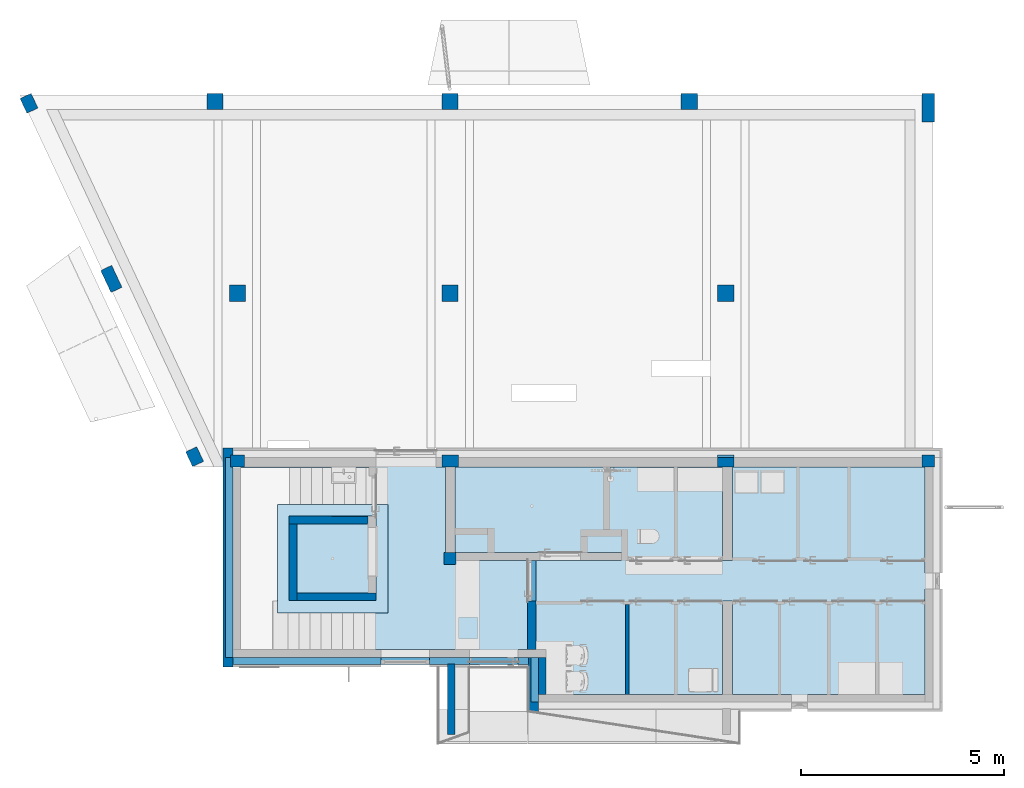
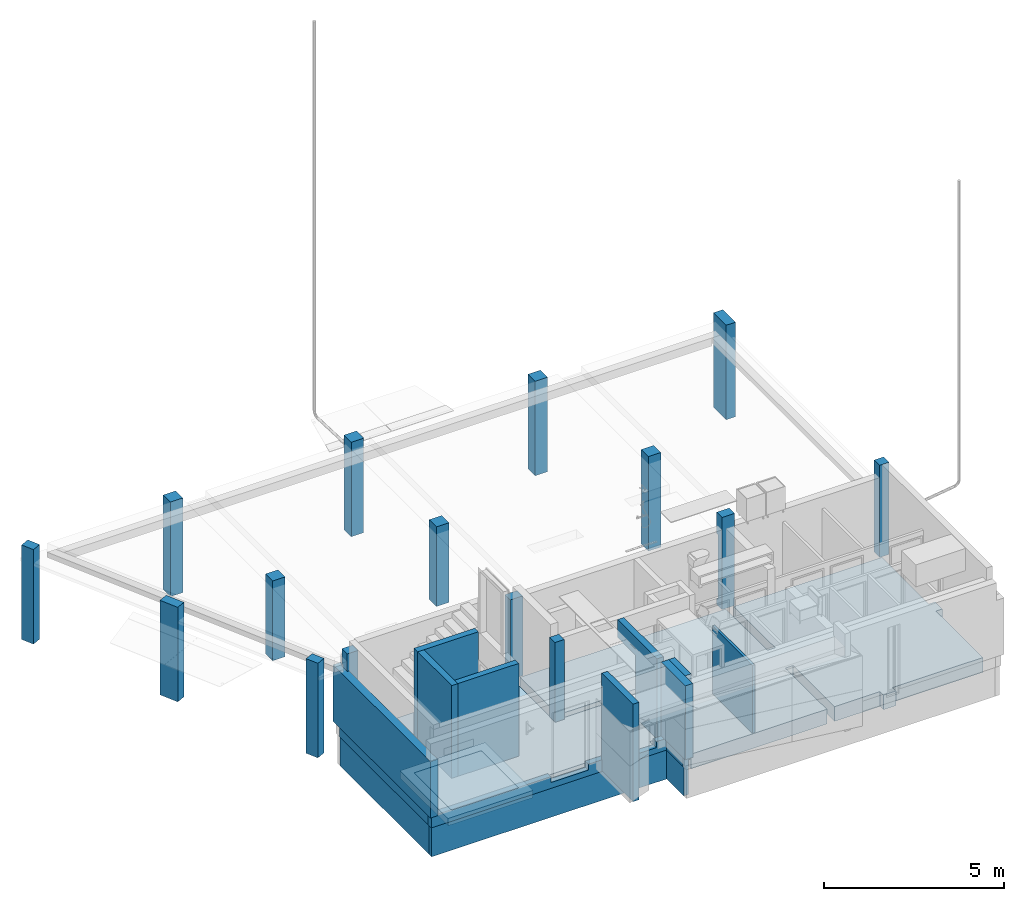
# One storey, part 1 of 55: 15 columns, 12 walls, 4 slabs, 6 openings.
"""IFC2X3 building model written with IfcOpenShell, lengths in millimetres."""

from ifc_helpers import new_model, entity, si_unit, converted_unit, direction, frame, frame_2d, origin, origin_2d_with_axis, place, context, subcontext, project, spatial, polyline, rectangle, outline, extrude, boolean, clip, bounded_halfspace, faceted_brep, source, transform, mapped, material, layer, layer_set, layer_usage, type_object, type_shapes, element, save


model = new_model("IFC2X3")

# Units and contexts
model_context = context("Model", 3, precision=0.01, world=origin(), true_north=direction((6.123233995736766e-17, 1.0)))
plan_context = context("Plan", 3, precision=0.01, world=origin(), true_north=direction((6.123233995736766e-17, 1.0)))
body_context = subcontext(model_context, "Body", "Model", "MODEL_VIEW")
ifc_project = project(units=[si_unit("LENGTHUNIT", "METRE", prefix="MILLI"), converted_unit("PLANEANGLEUNIT", "DEGREE", entity("IfcPlaneAngleMeasure", 0.017453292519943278), si_unit("PLANEANGLEUNIT", "RADIAN"), dimensions=[0, 0, 0, 0, 0, 0, 0]), si_unit("AREAUNIT", "SQUARE_METRE")], contexts=[model_context, plan_context])

# Site, building, storey
site_placement = place(None, origin())
site = spatial("IfcSite", under=ifc_project, at=site_placement, Name="Default", CompositionType="ELEMENT")
building_placement = place(site_placement, origin())
building = spatial("IfcBuilding", under=site, at=building_placement, CompositionType="ELEMENT")
storey_placement = place(building_placement, origin())
storey = spatial("IfcBuildingStorey", under=building, at=storey_placement, Name="1K", CompositionType="ELEMENT", Elevation=0.0)

# Columns
ifc_material_1 = material(Name="_K. Betoon. Armeeritud. Monteeritav")
column_type_1 = type_object("IfcColumnType", Name="HR_Column_Rectangular_Solid:400x300", PredefinedType="COLUMN", material=ifc_material_1)
shared_shape_1 = source(origin(), body_context, "Body", "SweptSolid", [
    extrude(outline(polyline([(-1693.5000495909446, -210.0), (1431.4999504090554, -210.0), (1431.4999504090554, 90.0), (1231.4999504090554, 90.0), (1231.4999504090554, 30.0), (-969.4998512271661, 30.0), (-969.4998512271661, 90.0), (-1693.5000495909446, 90.0), (-1693.5000495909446, -210.0)])), frame((11775.003532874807, 6615.000000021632, 1431.4999504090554), z_axis=(1.0, 0.0, 0.0), x_axis=(0.0, 0.0, -1.0)), (0.0, 0.0, 1.0), 399.9999999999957),
])
type_shapes(column_type_1, [shared_shape_1])
column_1_placement = place(storey_placement, origin())
element("IfcColumn", 1, at=column_1_placement, inside=storey, type_object=column_type_1, material=ifc_material_1, Name="HR_Column_Rectangular_Solid:400x300", ObjectType="HR_Column_Rectangular_Solid:400x300", context=body_context, shape_type="MappedRepresentation", body=[
    mapped(shared_shape_1, transform((0.0, 0.0, 0.0), scale=1.0)),
])
column_type_2 = type_object("IfcColumnType", Name="HR_Column_Rectangular_Solid:400x300", PredefinedType="COLUMN", material=ifc_material_1)
shared_shape_2 = source(origin(), body_context, "Body", "SweptSolid", [
    extrude(rectangle(XDim=300.0, YDim=399.99999999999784, at=frame_2d((5.400124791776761e-13, 0.0), x_axis=(1.0, 0.0))), frame((5180.001886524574, 6555.000000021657, 0.0), z_axis=(0.0, 0.0, 1.0), x_axis=(0.0, 1.0, 0.0)), (0.0, 0.0, 1.0), 2705.0),
])
type_shapes(column_type_2, [shared_shape_2])
column_2_placement = place(storey_placement, origin())
element("IfcColumn", 2, at=column_2_placement, inside=storey, type_object=column_type_2, material=ifc_material_1, Name="HR_Column_Rectangular_Solid:400x300", ObjectType="HR_Column_Rectangular_Solid:400x300", context=body_context, shape_type="MappedRepresentation", body=[
    mapped(shared_shape_2, transform((0.0, 0.0, 0.0), scale=1.0)),
])
column_type_3 = type_object("IfcColumnType", Name="HR_Column_Rectangular_Solid:350x300", PredefinedType="COLUMN", material=ifc_material_1)
shared_shape_3 = source(origin(), body_context, "Body", "SweptSolid", [
    extrude(rectangle(XDim=300.0, YDim=349.99999999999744, at=frame_2d((5.400124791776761e-13, 1.4210854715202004e-14), x_axis=(1.0, 0.0))), frame((-75.0, 6555.000000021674, 0.0), z_axis=(0.0, 0.0, 1.0), x_axis=(0.0, 1.0, 0.0)), (0.0, 0.0, 1.0), 2705.0),
])
type_shapes(column_type_3, [shared_shape_3])
column_3_placement = place(storey_placement, origin())
element("IfcColumn", 3, at=column_3_placement, inside=storey, type_object=column_type_3, material=ifc_material_1, Name="HR_Column_Rectangular_Solid:350x300", ObjectType="HR_Column_Rectangular_Solid:350x300", context=body_context, shape_type="MappedRepresentation", body=[
    mapped(shared_shape_3, transform((0.0, 0.0, 0.0), scale=1.0)),
])
column_type_4 = type_object("IfcColumnType", Name="HR_Column_Rectangular_Solid:300x300", PredefinedType="COLUMN", material=ifc_material_1)
shared_shape_4 = source(origin(), body_context, "Body", "SweptSolid", [
    extrude(rectangle(XDim=300.0, YDim=299.99999999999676, at=frame_2d((-5.400124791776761e-13, 0.0), x_axis=(1.0, 0.0))), frame((16975.0, 6555.0000000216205, 0.0), z_axis=(0.0, 0.0, 1.0), x_axis=(0.0, 1.0, 0.0)), (0.0, 0.0, 1.0), 3125.0),
])
type_shapes(column_type_4, [shared_shape_4])
column_4_placement = place(storey_placement, origin())
element("IfcColumn", 4, at=column_4_placement, inside=storey, type_object=column_type_4, material=ifc_material_1, Name="HR_Column_Rectangular_Solid:300x300", ObjectType="HR_Column_Rectangular_Solid:300x300", context=body_context, shape_type="MappedRepresentation", body=[
    mapped(shared_shape_4, transform((0.0, 0.0, 0.0), scale=1.0)),
])
column_type_5 = type_object("IfcColumnType", Name="HR_Column_Rectangular_Solid:400x400", PredefinedType="COLUMN", material=ifc_material_1)
shared_shape_5 = source(origin(), body_context, "Body", "SweptSolid", [
    extrude(rectangle(XDim=399.99999999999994, YDim=399.99999999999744, at=origin_2d_with_axis()), frame((0.0, 0.0, -500.0), z_axis=(0.0, 0.0, 1.0), x_axis=(0.0, 1.0, 0.0)), (0.0, 0.0, 1.0), 3205.0),
])
type_shapes(column_type_5, [shared_shape_5])
for number, where, name in (
    (5, (11975.0, 10700.0, 0.0), "HR_Column_Rectangular_Solid:400x400"),
    (6, (5175.0, 15430.0, 0.0), "HR_Column_Rectangular_Solid:400x400"),
    (7, (-625.0, 15430.0, 0.0), "HR_Column_Rectangular_Solid:400x400"),
    (8, (11075.0, 15430.0, 0.0), "HR_Column_Rectangular_Solid:400x400"),
):
    element("IfcColumn", number, at=place(storey_placement, frame(where)), inside=storey, type_object=column_type_5, material=ifc_material_1, Name=name, ObjectType="HR_Column_Rectangular_Solid:400x400", context=body_context, shape_type="MappedRepresentation", body=[
        mapped(shared_shape_5, transform((0.0, 0.0, 0.0), scale=1.0)),
    ])
column_type_6 = type_object("IfcColumnType", Name="HR_Column_Rectangular_Solid:400x400", PredefinedType="COLUMN", material=ifc_material_1)
shared_shape_6 = source(origin(), body_context, "Body", "SweptSolid", [
    extrude(rectangle(XDim=399.99999999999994, YDim=399.99999999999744, at=origin_2d_with_axis()), frame((0.0, 0.0, 0.0), z_axis=(0.0, 0.0, 1.0), x_axis=(0.0, 1.0, 0.0)), (0.0, 0.0, 1.0), 2705.0),
])
type_shapes(column_type_6, [shared_shape_6])
for number, where, name in (
    (9, (5175.0, 10700.0, 0.0), "HR_Column_Rectangular_Solid:400x400"),
    (10, (-75.00999999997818, 10700.0, 0.0), "HR_Column_Rectangular_Solid:400x400"),
):
    element("IfcColumn", number, at=place(storey_placement, frame(where)), inside=storey, type_object=column_type_6, material=ifc_material_1, Name=name, ObjectType="HR_Column_Rectangular_Solid:400x400", context=body_context, shape_type="MappedRepresentation", body=[
        mapped(shared_shape_6, transform((0.0, 0.0, 0.0), scale=1.0)),
    ])
column_type_7 = type_object("IfcColumnType", Name="HR_Column_Rectangular_Solid:400x300", PredefinedType="COLUMN", material=ifc_material_1)
shared_shape_7 = source(origin(), body_context, "Body", "SweptSolid", [
    extrude(rectangle(XDim=299.9999999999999, YDim=399.99999999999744, at=origin_2d_with_axis()), frame((0.0, 0.0, -500.0), z_axis=(0.0, 0.0, 1.0), x_axis=(0.0, 1.0, 0.0)), (0.0, 0.0, 1.0), 3205.0),
])
type_shapes(column_type_7, [shared_shape_7])
for number, where, z_axis, x_axis, name in (
    (11, (-5218.062935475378, 15385.362143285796, 0.0), (0.0, 0.0, 1.0), (0.42443387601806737, -0.9054589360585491, 0.0), "HR_Column_Rectangular_Solid:400x300"),
    (12, (-1130.4630057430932, 6665.1489545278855, 0.0), (0.0, 0.0, 1.0), (0.42443387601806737, -0.9054589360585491, 0.0), "HR_Column_Rectangular_Solid:400x300"),
):
    element("IfcColumn", number, at=place(storey_placement, frame(where, z_axis=z_axis, x_axis=x_axis)), inside=storey, type_object=column_type_7, material=ifc_material_1, Name=name, ObjectType="HR_Column_Rectangular_Solid:400x300", context=body_context, shape_type="MappedRepresentation", body=[
        mapped(shared_shape_7, transform((0.0, 0.0, 0.0), scale=1.0)),
    ])
column_type_8 = type_object("IfcColumnType", Name="HR_Column_Rectangular_Solid:600x300", PredefinedType="COLUMN", material=ifc_material_1)
shared_shape_8 = source(origin(), body_context, "Body", "SweptSolid", [
    extrude(rectangle(XDim=299.9999999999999, YDim=599.9999999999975, at=origin_2d_with_axis()), frame((0.0, 0.0, -500.0), z_axis=(0.0, 0.0, 1.0), x_axis=(0.0, 1.0, 0.0)), (0.0, 0.0, 1.0), 3205.0),
])
type_shapes(column_type_8, [shared_shape_8])
column_5_placement = place(storey_placement, frame((-3186.3853365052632, 11051.109124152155, 0.0), z_axis=(0.0, 0.0, 1.0), x_axis=(0.42443387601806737, -0.9054589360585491, 0.0)))
element("IfcColumn", 13, at=column_5_placement, inside=storey, type_object=column_type_8, material=ifc_material_1, Name="HR_Column_Rectangular_Solid:600x300", ObjectType="HR_Column_Rectangular_Solid:600x300", context=body_context, shape_type="MappedRepresentation", body=[
    mapped(shared_shape_8, transform((0.0, 0.0, 0.0), scale=1.0)),
])
column_type_9 = type_object("IfcColumnType", Name="HR_Column_Rectangular_Solid:300x300", PredefinedType="COLUMN", material=ifc_material_1)
shared_shape_9 = source(origin(), body_context, "Body", "SweptSolid", [
    extrude(rectangle(XDim=299.9999999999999, YDim=299.9999999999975, at=origin_2d_with_axis()), frame((0.0, 0.0, 0.0), z_axis=(0.0, 0.0, 1.0), x_axis=(0.0, 1.0, 0.0)), (0.0, 0.0, 1.0), 2705.0),
])
type_shapes(column_type_9, [shared_shape_9])
column_6_placement = place(storey_placement, frame((5175.0, 4149.9899999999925, 0.0)))
element("IfcColumn", 14, at=column_6_placement, inside=storey, type_object=column_type_9, material=ifc_material_1, Name="HR_Column_Rectangular_Solid:300x300", ObjectType="HR_Column_Rectangular_Solid:300x300", context=body_context, shape_type="MappedRepresentation", body=[
    mapped(shared_shape_9, transform((0.0, 0.0, 0.0), scale=1.0)),
])
column_type_10 = type_object("IfcColumnType", Name="HR_Column_Rectangular_Solid:700x300", PredefinedType="COLUMN", material=ifc_material_1)
shared_shape_10 = source(origin(), body_context, "Body", "SweptSolid", [
    extrude(rectangle(XDim=299.9999999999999, YDim=699.9999999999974, at=origin_2d_with_axis()), frame((0.0, 0.0, -500.0), z_axis=(0.0, 0.0, 1.0), x_axis=(0.0, 1.0, 0.0)), (0.0, 0.0, 1.0), 3205.0),
])
type_shapes(column_type_10, [shared_shape_10])
column_7_placement = place(storey_placement, frame((16974.99640453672, 15280.0, 0.0), z_axis=(0.0, 0.0, 1.0), x_axis=(0.0, -1.0, 0.0)))
element("IfcColumn", 15, at=column_7_placement, inside=storey, type_object=column_type_10, material=ifc_material_1, Name="HR_Column_Rectangular_Solid:700x300", ObjectType="HR_Column_Rectangular_Solid:700x300", context=body_context, shape_type="MappedRepresentation", body=[
    mapped(shared_shape_10, transform((0.0, 0.0, 0.0), scale=1.0)),
])

# Slab, opening
ifc_material_2 = material(Name="_K. Betoon. Armeeritud. Kohtvalu")
ifc_layer_1 = layer(ifc_material_2, 100.0)
ifc_material_3 = material(Name="_K. Soojustus. EPS")
ifc_layer_2 = layer(ifc_material_3, 200.0)
ifc_material_4 = material(Name="_K. Puistematerjal. Killustik")
ifc_layer_3 = layer(ifc_material_4, 200.0)
ifc_layer_set_1 = layer_set([ifc_layer_1, ifc_layer_2, ifc_layer_3], Name="Floor:PP-01")
ifc_layer_usage_1 = layer_usage(ifc_layer_set_1, "AXIS3", "POSITIVE", 0.0)
slab_type_1 = type_object("IfcSlabType", Name="Floor:PP-01", PredefinedType="FLOOR", material=ifc_layer_set_1)
slab_1_placement = place(storey_placement, origin())
slab_1 = element("IfcSlab", 16, at=slab_1_placement, inside=storey, type_object=slab_type_1, material=ifc_layer_usage_1, Name="Floor:PP-01", ObjectType="Floor:PP-01", PredefinedType="FLOOR", context=body_context, shape_type="SweptSolid", body=[
    boolean("DIFFERENCE", extrude(outline(polyline([(-2252.1428571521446, -4683.570722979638), (2252.857142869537, -4683.570722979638), (2252.857142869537, -1363.570722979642), (2492.8571428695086, -1363.5707229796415), (2492.8571428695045, 136.42927702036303), (2252.8571428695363, 136.42927702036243), (2252.8571428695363, 371.4243378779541), (-52.1428571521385, 371.42433787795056), (-52.14285715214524, 2406.4292770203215), (-2252.1428571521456, 2406.429277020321), (-2252.1428571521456, 2166.4292770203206), (-2442.142857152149, 2166.4292770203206), (-2442.142857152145, 966.4292770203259), (-2252.142857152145, 966.4292770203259), (-2252.1428571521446, -4683.570722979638)])), frame((4683.570722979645, 4152.142857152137, -20.0), z_axis=(0.0, 0.0, -1.0), x_axis=(0.0, 1.0, 0.0)), (0.0, 0.0, 1.0), 500.00000000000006), extrude(rectangle(XDim=2090.004577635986, YDim=2149.9999999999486, at=origin_2d_with_axis()), frame((2274.9935349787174, 4154.996144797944, -520.0), z_axis=(0.0, 0.0, 1.0), x_axis=(0.0, 1.0, 0.0)), (0.0, 0.0, 1.0), 500.00000000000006)),
])
opening_1_placement = place(slab_1_placement, origin())
element("IfcOpeningElement", 17, at=opening_1_placement, cuts=slab_1, Name="Floor:PP-01", ObjectType="Opening", context=body_context, shape_type="SweptSolid", body=[
    extrude(rectangle(XDim=2090.004577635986, YDim=2149.9999999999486, at=origin_2d_with_axis()), frame((2274.9935349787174, 4154.996144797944, -20.0), z_axis=(0.0, 0.0, -1.0), x_axis=(0.0, -1.0, 0.0)), (0.0, 0.0, 1.0), 500.00000000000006),
])

# Slab
ifc_layer_usage_2 = layer_usage(ifc_layer_set_1, "AXIS3", "POSITIVE", 0.0)
slab_2_placement = place(storey_placement, origin())
element("IfcSlab", 18, at=slab_2_placement, inside=storey, type_object=slab_type_1, material=ifc_layer_usage_2, Name="Floor:PP-01", ObjectType="Floor:PP-01", PredefinedType="FLOOR", context=body_context, shape_type="SweptSolid", body=[
    extrude(outline(polyline([(1183.0769318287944, -6713.847221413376), (3288.076931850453, -6713.847221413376), (3288.0769318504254, -113.84935764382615), (983.076891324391, -113.8493576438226), (983.0768913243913, 136.1506423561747), (3288.076931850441, 136.15064235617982), (3288.076931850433, 4891.155581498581), (683.0769263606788, 4891.155581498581), (683.0769263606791, 5091.155581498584), (283.076926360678, 5091.155581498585), (283.0769263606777, 4891.1555814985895), (-2316.9230736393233, 4891.155581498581), (-2316.9230736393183, 1991.1555814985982), (-2506.923073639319, 1991.1555814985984), (-2506.923073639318, 1591.1555814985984), (-2316.923073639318, 1591.1555814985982), (-2316.9230736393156, 136.1506423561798), (-16.923108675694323, 136.15064235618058), (-16.92310867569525, -113.84935764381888), (-2316.9230736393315, -113.84935764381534), (-2316.923073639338, -4468.844418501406), (-1216.923068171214, -4468.844418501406), (-1216.9230681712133, -4718.844418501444), (983.0769318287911, -4718.844418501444), (983.0769318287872, -2598.844418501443), (1183.0769318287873, -2598.844418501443), (1183.0769318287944, -6713.847221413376)])), frame((12008.844418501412, 3116.9230681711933, -20.0), z_axis=(0.0, 0.0, -1.0), x_axis=(0.0, 1.0, 0.0)), (0.0, 0.0, 1.0), 500.00000000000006),
])

# Slab, opening
ifc_layer_4 = layer(ifc_material_2, 250.00000000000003)
ifc_layer_set_2 = layer_set([ifc_layer_4], Name="Floor:Liftišaht")
ifc_layer_usage_3 = layer_usage(ifc_layer_set_2, "AXIS3", "POSITIVE", 0.0)
slab_type_2 = type_object("IfcSlabType", Name="Floor:Liftišaht", PredefinedType="FLOOR", material=ifc_layer_set_2)
slab_3_placement = place(storey_placement, origin())
slab_3 = element("IfcSlab", 19, at=slab_3_placement, inside=storey, type_object=slab_type_2, material=ifc_layer_usage_3, Name="Floor:Liftišaht", ObjectType="Floor:Liftišaht", PredefinedType="FLOOR", context=body_context, shape_type="SweptSolid", body=[
    boolean("DIFFERENCE", extrude(rectangle(XDim=2680.004577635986, YDim=2729.999999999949, at=origin_2d_with_axis()), frame((2274.9935349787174, 4149.996144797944, -1100.0), z_axis=(0.0, 0.0, -1.0), x_axis=(0.0, 1.0, 0.0)), (0.0, 0.0, 1.0), 250.00000000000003), extrude(rectangle(XDim=2090.004577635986, YDim=2149.9999999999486, at=origin_2d_with_axis()), frame((2274.9935349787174, 4154.996144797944, -1350.0), z_axis=(0.0, 0.0, 1.0), x_axis=(0.0, 1.0, 0.0)), (0.0, 0.0, 1.0), 250.00000000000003)),
])
opening_2_placement = place(slab_3_placement, origin())
element("IfcOpeningElement", 20, at=opening_2_placement, cuts=slab_3, Name="Floor:Liftišaht", ObjectType="Opening", context=body_context, shape_type="SweptSolid", body=[
    extrude(rectangle(XDim=2090.004577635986, YDim=2149.9999999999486, at=origin_2d_with_axis()), frame((2274.9935349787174, 4154.996144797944, -1100.0), z_axis=(0.0, 0.0, -1.0), x_axis=(0.0, -1.0, 0.0)), (0.0, 0.0, 1.0), 250.00000000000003),
])

# Slab
ifc_layer_usage_4 = layer_usage(ifc_layer_set_2, "AXIS3", "POSITIVE", 0.0)
slab_4_placement = place(storey_placement, origin())
element("IfcSlab", 21, at=slab_4_placement, inside=storey, type_object=slab_type_2, material=ifc_layer_usage_4, Name="Floor:Liftišaht", ObjectType="Floor:Liftišaht", PredefinedType="FLOOR", context=body_context, shape_type="SweptSolid", body=[
    extrude(rectangle(XDim=2090.004577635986, YDim=2149.9999999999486, at=origin_2d_with_axis()), frame((2274.9935349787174, 4154.996144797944, -1100.0), z_axis=(0.0, 0.0, -1.0), x_axis=(0.0, 1.0, 0.0)), (0.0, 0.0, 1.0), 250.00000000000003),
])

# Wall, opening
ifc_material_5 = material(Name="_K. Väisviimistlus. Krohv. Valge")
ifc_layer_5 = layer(ifc_material_5, 5.0)
ifc_material_6 = material(Name="_K. Müüritis. Väikeplokk. Betoon-õõnesplokk")
ifc_layer_6 = layer(ifc_material_6, 190.00000000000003)
ifc_layer_7 = layer(ifc_material_5, 5.0)
ifc_layer_set_3 = layer_set([ifc_layer_5, ifc_layer_6, ifc_layer_7], Name="Basic Wall:SS-01. 190")
ifc_layer_usage_5 = layer_usage(ifc_layer_set_3, "AXIS2", "NEGATIVE", 100.00000000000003)
wall_type_1 = type_object("IfcWallType", Name="Basic Wall:SS-01. 190", PredefinedType="STANDARD", material=ifc_layer_set_3)
wall_1_placement = place(storey_placement, frame((1199.993534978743, 5099.998433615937, -1100.0)))
wall_1 = element("IfcWallStandardCase", 22, at=wall_1_placement, inside=storey, type_object=wall_type_1, material=ifc_layer_usage_5, Name="Basic Wall:SS-01. 190", ObjectType="Basic Wall:SS-01. 190", context=body_context, shape_type="SweptSolid", body=[
    extrude(rectangle(XDim=1949.9999999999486, YDim=200.0, at=frame_2d((974.9999999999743, 0.0), x_axis=(-1.0, 0.0))), origin(), (0.0, 0.0, 1.0), 4225.0),
])
opening_3_placement = place(wall_1_placement, frame((-1199.993534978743, -5099.998433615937, 1100.0)))
element("IfcOpeningElement", 23, at=opening_3_placement, cuts=wall_1, Name="Basic Wall:SS-01. 190", ObjectType="Opening", context=body_context, shape_type="SweptSolid", body=[
    extrude(rectangle(XDim=2100.0, YDim=2091.999999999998, at=frame_2d((0.0, -2.2737367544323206e-13), x_axis=(1.0, 0.0))), frame((3293.9935349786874, 5189.9984336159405, 1050.0), z_axis=(0.0, 1.0, 0.0), x_axis=(0.0, 0.0, 1.0)), (0.0, 0.0, 1.0), 1000.0000000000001),
])

# Wall
ifc_layer_usage_6 = layer_usage(ifc_layer_set_3, "AXIS2", "NEGATIVE", 100.00000000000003)
wall_2_placement = place(storey_placement, frame((1299.993534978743, 3109.993855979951, -1100.0), z_axis=(0.0, 0.0, 1.0), x_axis=(0.0, 1.0, 0.0)))
element("IfcWallStandardCase", 24, at=wall_2_placement, inside=storey, type_object=wall_type_1, material=ifc_layer_usage_6, Name="Basic Wall:SS-01. 190", ObjectType="Basic Wall:SS-01. 190", context=body_context, shape_type="SweptSolid", body=[
    extrude(rectangle(XDim=1890.0045776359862, YDim=200.0, at=frame_2d((945.0022888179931, 0.0), x_axis=(-1.0, 0.0))), origin(), (0.0, 0.0, 1.0), 4225.0),
])

# Wall, opening
ifc_layer_usage_7 = layer_usage(ifc_layer_set_3, "AXIS2", "POSITIVE", -100.00000000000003)
wall_3_placement = place(storey_placement, frame((7190.0, 4100.0, -180.0), z_axis=(0.0, 0.0, 1.0), x_axis=(0.0, -1.0, 0.0)))
wall_3 = element("IfcWallStandardCase", 25, at=wall_3_placement, inside=storey, type_object=wall_type_1, material=ifc_layer_usage_7, Name="Basic Wall:SS-01. 190", ObjectType="Basic Wall:SS-01. 190", context=body_context, shape_type="SweptSolid", body=[
    extrude(rectangle(XDim=2200.0000000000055, YDim=200.0, at=frame_2d((1100.0000000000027, 2.842170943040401e-14), x_axis=(-1.0, 0.0))), origin(), (0.0, 0.0, 1.0), 2885.0000000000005),
])
opening_4_placement = place(wall_3_placement, frame((4100.0, -7190.0, 180.0), z_axis=(0.0, 0.0, 1.0), x_axis=(0.0, 1.0, 0.0)))
element("IfcOpeningElement", 26, at=opening_4_placement, cuts=wall_3, Name="Basic Wall:SS-01. 190", ObjectType="Opening", context=body_context, shape_type="Brep", body=[
    faceted_brep([(8182.0, 4100.0, 2100.0), (8182.0, 3100.0, 2100.0), (8182.0, 3100.0, 0.0), (8182.0, 4100.0, 0.0), (6090.0, 4100.0, 0.0), (6090.0, 4100.0, 2100.0), (6090.0, 3100.0, 0.0), (6090.0, 3100.0, 2100.0)], [[[0, 1, 2, 3]], [[3, 4, 5, 0]], [[2, 6, 4, 3]], [[1, 7, 6, 2]], [[5, 7, 1, 0]], [[7, 5, 4, 6]]]),
])

# Walls
ifc_layer_8 = layer(ifc_material_6, 190.00000000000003)
ifc_layer_set_4 = layer_set([ifc_layer_8], Name="Basic Wall:Columbia 190mm")
ifc_layer_usage_8 = layer_usage(ifc_layer_set_4, "AXIS2", "NEGATIVE", 95.00000000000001)
wall_type_2 = type_object("IfcWallType", Name="Basic Wall:Columbia 190mm", PredefinedType="STANDARD", material=ifc_layer_set_4)
wall_4_placement = place(storey_placement, frame((3349.9935349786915, 3204.993855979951, -1100.0), z_axis=(0.0, 0.0, 1.0), x_axis=(-1.0, 0.0, 0.0)))
element("IfcWallStandardCase", 27, at=wall_4_placement, inside=storey, type_object=wall_type_2, material=ifc_layer_usage_8, Name="Basic Wall:Columbia 190mm", ObjectType="Basic Wall:Columbia 190mm", context=body_context, shape_type="SweptSolid", body=[
    extrude(rectangle(XDim=1949.9999999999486, YDim=190.0000000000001, at=frame_2d((974.9999999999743, 0.0), x_axis=(-1.0, 0.0))), origin(), (0.0, 0.0, 1.0), 4225.0),
])
ifc_layer_usage_9 = layer_usage(ifc_layer_set_4, "AXIS2", "POSITIVE", -95.00000000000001)
wall_5_placement = place(storey_placement, frame((7445.0, 1710.0, -180.0), z_axis=(0.0, 0.0, 1.0), x_axis=(0.0, -1.0, 0.0)))
element("IfcWallStandardCase", 28, at=wall_5_placement, inside=storey, type_object=wall_type_2, material=ifc_layer_usage_9, Name="Basic Wall:Columbia 190mm", ObjectType="Basic Wall:Columbia 190mm", context=body_context, shape_type="SweptSolid", body=[
    extrude(rectangle(XDim=910.0000054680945, YDim=190.0000000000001, at=frame_2d((455.00000273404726, 0.0), x_axis=(-1.0, 0.0))), origin(), (0.0, 0.0, 1.0), 2885.0000000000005),
])
ifc_layer_usage_10 = layer_usage(ifc_layer_set_4, "AXIS2", "NEGATIVE", 95.00000000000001)
wall_6_placement = place(storey_placement, frame((5205.0, 1550.0, -180.0), z_axis=(0.0, 0.0, 1.0), x_axis=(0.0, -1.0, 0.0)))
element("IfcWallStandardCase", 29, at=wall_6_placement, inside=storey, type_object=wall_type_2, material=ifc_layer_usage_10, Name="Basic Wall:Columbia 190mm", ObjectType="Basic Wall:Columbia 190mm", context=body_context, shape_type="SweptSolid", body=[
    extrude(rectangle(XDim=1739.9999999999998, YDim=190.0000000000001, at=frame_2d((869.9999999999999, 0.0), x_axis=(-1.0, 0.0))), origin(), (0.0, 0.0, 1.0), 3305.0),
])
ifc_layer_9 = layer(ifc_material_5, 10.0)
ifc_material_7 = material(Name="_K. Soojustus. EPS Silver")
ifc_layer_10 = layer(ifc_material_7, 230.0)
ifc_layer_set_5 = layer_set([ifc_layer_9, ifc_layer_10], Name="Basic Wall:VS-01")
ifc_layer_usage_11 = layer_usage(ifc_layer_set_5, "AXIS2", "NEGATIVE", 120.0)
wall_type_3 = type_object("IfcWallType", Name="Basic Wall:VS-01", PredefinedType="STANDARD", material=ifc_layer_set_5)
wall_7_placement = place(storey_placement, frame((-310.0, 1470.0, 200.0), z_axis=(0.0, 0.0, 1.0), x_axis=(0.0, 1.0, 0.0)))
element("IfcWallStandardCase", 30, at=wall_7_placement, inside=storey, type_object=wall_type_3, material=ifc_layer_usage_11, Name="Basic Wall:VS-01", ObjectType="Basic Wall:VS-01", context=body_context, shape_type="Clipping", body=[
    clip(clip(extrude(rectangle(XDim=5415.000000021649, YDim=240.0, at=frame_2d((2707.5000000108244, -2.1316282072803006e-14), x_axis=(-1.0, 0.0))), origin(), (0.0, 0.0, 1.0), 1915.0), bounded_halfspace(frame((430.0, -110.0, 0.0), z_axis=(0.0, 1.0, 0.0), x_axis=(-1.0, 0.0, 0.0)), True, frame((430.0, -110.0, 0.0), z_axis=(0.0, 1.0, 0.0), x_axis=(-1.0, 0.0, 0.0)), polyline([(0.0, 0.0), (190.0, 0.0), (190.0, 1915.0), (0.0, 1915.0), (0.0, 0.0)]))), bounded_halfspace(frame((4935.0, -60.0, 1915.0), z_axis=(0.0, 1.0, 0.0), x_axis=(0.0, 0.0, -1.0)), True, frame((4935.0, -60.0, 1915.0), z_axis=(0.0, 1.0, 0.0), x_axis=(0.0, 0.0, -1.0)), polyline([(0.0, 0.0), (0.0, -300.0), (1915.0, -300.0), (1915.0, 0.0), (0.0, 0.0)]))),
])
ifc_layer_usage_12 = layer_usage(ifc_layer_set_5, "AXIS2", "NEGATIVE", 120.0)
wall_8_placement = place(storey_placement, frame((7230.0, 370.0, 200.0), z_axis=(0.0, 0.0, 1.0), x_axis=(0.0, 1.0, 0.0)))
element("IfcWallStandardCase", 31, at=wall_8_placement, inside=storey, type_object=wall_type_3, material=ifc_layer_usage_12, Name="Basic Wall:VS-01", ObjectType="Basic Wall:VS-01", context=body_context, shape_type="SweptSolid", body=[
    extrude(rectangle(XDim=1339.9999999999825, YDim=239.9999999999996, at=frame_2d((669.9999999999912, 2.4158453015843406e-13), x_axis=(-1.0, 0.0))), origin(), (0.0, 0.0, 1.0), 2505.0),
])
ifc_material_8 = material(Name="_K. Ehitusplaat. Vineer")
ifc_layer_11 = layer(ifc_material_8, 12.0)
ifc_material_9 = material(Name="_K. Puit. Peitsitud ja lakitud")
ifc_layer_12 = layer(ifc_material_9, 70.0)
ifc_layer_set_6 = layer_set([ifc_layer_11, ifc_layer_12], Name="Basic Wall:SS-07. Panipaik")
ifc_layer_usage_13 = layer_usage(ifc_layer_set_6, "AXIS2", "POSITIVE", -41.0)
wall_type_4 = type_object("IfcWallType", Name="Basic Wall:SS-07. Panipaik", PredefinedType="STANDARD", material=ifc_layer_set_6)
wall_9_placement = place(storey_placement, frame((9545.99506085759, 799.9999945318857, 0.0), z_axis=(0.0, 0.0, 1.0), x_axis=(0.0, 1.0, 0.0)))
element("IfcWallStandardCase", 32, at=wall_9_placement, inside=storey, type_object=wall_type_4, material=ifc_layer_usage_13, Name="Basic Wall:SS-07. Panipaik", ObjectType="Basic Wall:SS-07. Panipaik", context=body_context, shape_type="SweptSolid", body=[
    extrude(rectangle(XDim=2217.9999649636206, YDim=82.00000000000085, at=frame_2d((1108.9999824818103, 1.9895196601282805e-13), x_axis=(-1.0, 0.0))), origin(), (0.0, 0.0, 1.0), 2300.0),
])
ifc_material_10 = material(Name="_K. Ehitusplaat. Tsementkiudplaat. Must")
ifc_layer_13 = layer(ifc_material_10, 10.0)
ifc_material_11 = material(Name="_K. Õhk. Roov. Fassaadikatte alusroov. Vertikaalne. 25 mm")
ifc_layer_14 = layer(ifc_material_11, 16.0)
ifc_layer_15 = layer(ifc_material_7, 150.0)
ifc_layer_set_7 = layer_set([ifc_layer_13, ifc_layer_14, ifc_layer_15], Name="Basic Wall:VS-00")
ifc_layer_usage_14 = layer_usage(ifc_layer_set_7, "AXIS2", "NEGATIVE", 88.00000000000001)
wall_type_5 = type_object("IfcWallType", Name="Basic Wall:VS-00", PredefinedType="STANDARD", material=ifc_layer_set_7)
wall_10_placement = place(storey_placement, frame((7262.0, 610.0, -1200.0), z_axis=(0.0, 0.0, 1.0), x_axis=(0.0, 1.0, 0.0)))
element("IfcWallStandardCase", 33, at=wall_10_placement, inside=storey, type_object=wall_type_5, material=ifc_layer_usage_14, Name="Basic Wall:VS-00", ObjectType="Basic Wall:VS-00", context=body_context, shape_type="Clipping", body=[
    clip(extrude(rectangle(XDim=1099.999999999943, YDim=175.99999999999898, at=frame_2d((549.9999999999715, 0.0), x_axis=(-1.0, 0.0))), origin(), (0.0, 0.0, 1.0), 1400.0), bounded_halfspace(frame((0.0, 62.0, 1000.0), z_axis=(0.0, 0.0, 1.0), x_axis=(0.0, -1.0, 0.0)), True, frame((0.0, 62.0, 1000.0)), polyline([(0.0, 0.0), (1100.0, 0.0), (1100.0, 26.0), (0.0, 26.0), (0.0, 0.0)]))),
])

# Wall, openings
ifc_layer_usage_15 = layer_usage(ifc_layer_set_7, "AXIS2", "NEGATIVE", 88.00000000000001)
wall_11_placement = place(storey_placement, frame((7350.0, 1622.0, -1200.0), z_axis=(0.0, 0.0, 1.0), x_axis=(-1.0, 0.0, 0.0)))
wall_11 = element("IfcWallStandardCase", 34, at=wall_11_placement, inside=storey, type_object=wall_type_5, material=ifc_layer_usage_15, Name="Basic Wall:VS-00", ObjectType="Basic Wall:VS-00", context=body_context, shape_type="Clipping", body=[
    clip(extrude(rectangle(XDim=7716.000000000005, YDim=176.00000000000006, at=frame_2d((3858.0000000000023, 1.4210854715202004e-14), x_axis=(-1.0, 0.0))), origin(), (0.0, 0.0, 1.0), 1400.0), bounded_halfspace(frame((0.0, 62.0, 1000.0), z_axis=(0.0, 0.0, 1.0), x_axis=(-1.0, 0.0, 0.0)), True, frame((0.0, 62.0, 1000.0)), polyline([(0.0, 0.0), (7690.0, 0.0), (7690.0, -150.0), (7716.0, -150.0), (7716.0, 26.0), (0.0, 26.0), (0.0, 0.0)]))),
])
opening_5_placement = place(wall_11_placement, frame((7350.0, 1622.0, 1200.0)))
element("IfcOpeningElement", 35, at=opening_5_placement, cuts=wall_11, Name="Basic Wall:VS-00", ObjectType="Opening", context=body_context, shape_type="Brep", body=[
    faceted_brep([(-3470.0, -1450.0, 2400.0), (-3470.0, -2144.0, 2400.0), (-3470.0, -2144.0, 0.0), (-3470.0, -1560.0, 0.0), (-3470.0, -1550.0, 0.0), (-3470.0, -1450.0, 0.0), (-4670.0, -1450.0, 2400.0), (-4670.0, -2144.0, 2400.0), (-4670.0, -1450.0, 0.0), (-4670.0, -1550.0, 0.0), (-4670.0, -1560.0, 0.0), (-4670.0, -2144.0, 0.0)], [[[0, 1, 2, 3, 4, 5]], [[6, 7, 1, 0]], [[8, 9, 10, 11, 7, 6]], [[5, 4, 3, 2, 11, 10, 9, 8]], [[6, 0, 5, 8]], [[7, 11, 2, 1]]]),
])
opening_6_placement = place(wall_11_placement, frame((7350.0, 1622.0, 1200.0)))
element("IfcOpeningElement", 36, at=opening_6_placement, cuts=wall_11, Name="Basic Wall:VS-00", ObjectType="Opening", context=body_context, shape_type="Brep", body=[
    faceted_brep([(-5650.0, -2690.0, 2100.0), (-6850.0, -2690.0, 2100.0), (-6850.0, -2690.0, 0.0), (-5650.0, -2690.0, 0.0), (-5650.0, -598.0, 0.0), (-5650.0, -598.0, 2100.0), (-6850.0, -598.0, 0.0), (-6850.0, -598.0, 2100.0)], [[[0, 1, 2, 3]], [[3, 4, 5, 0]], [[2, 6, 4, 3]], [[1, 7, 6, 2]], [[5, 7, 1, 0]], [[7, 5, 4, 6]]]),
])

# Wall
ifc_layer_usage_16 = layer_usage(ifc_layer_set_7, "AXIS2", "NEGATIVE", 88.00000000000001)
wall_12_placement = place(storey_placement, frame((-278.0, 1710.0, -1200.0), z_axis=(0.0, 0.0, 1.0), x_axis=(0.0, 1.0, 0.0)))
element("IfcWallStandardCase", 37, at=wall_12_placement, inside=storey, type_object=wall_type_5, material=ifc_layer_usage_16, Name="Basic Wall:VS-00", ObjectType="Basic Wall:VS-00", context=body_context, shape_type="Clipping", body=[
    clip(extrude(rectangle(XDim=4935.0000000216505, YDim=176.00000000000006, at=frame_2d((2467.5000000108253, 0.0), x_axis=(-1.0, 0.0))), origin(), (0.0, 0.0, 1.0), 1400.0), bounded_halfspace(frame((0.0, 62.0, 1000.0), z_axis=(0.0, 0.0, 1.0), x_axis=(0.0, -1.0, 0.0)), True, frame((0.0, 62.0, 1000.0)), polyline([(0.0, 0.0), (4935.0, 0.0), (4935.0, 26.0), (0.0, 26.0), (0.0, 0.0)]))),
])

save(model, "model.ifc")
